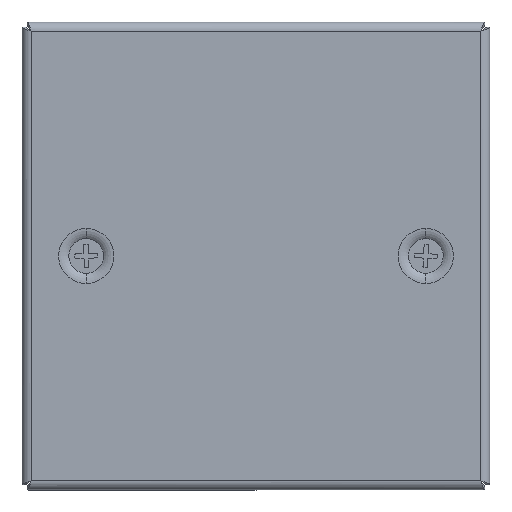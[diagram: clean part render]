
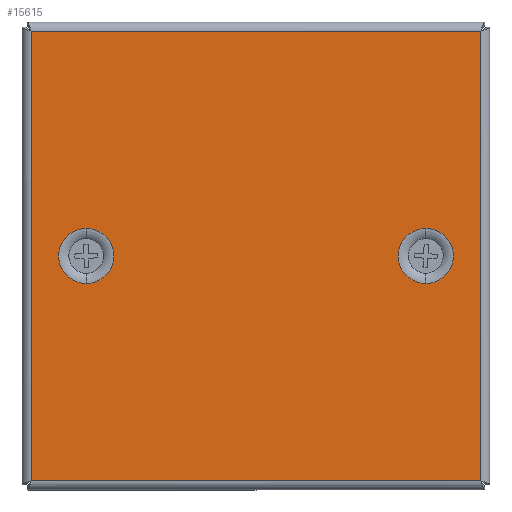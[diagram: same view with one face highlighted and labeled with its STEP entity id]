
A CAD part, top view. The second image highlights one B-rep face of the part: STEP entity #15615.
In plain terms, the highlighted planar face has unit normal (0, 0, 1).
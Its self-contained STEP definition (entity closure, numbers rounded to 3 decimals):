
#182 = FACE_BOUND ( 'NONE', #12487, .T. ) ;
#351 = CIRCLE ( 'NONE', #16103, 7.301 ) ;
#459 = DIRECTION ( 'NONE',  ( 0., -1., 0. ) ) ;
#672 = CARTESIAN_POINT ( 'NONE',  ( 45., -7.301, 0. ) ) ;
#793 = AXIS2_PLACEMENT_3D ( 'NONE', #8541, #15351, #14134 ) ;
#921 = DIRECTION ( 'NONE',  ( 0., -1., 0. ) ) ;
#1149 = EDGE_CURVE ( 'NONE', #2542, #14421, #8811, .T. ) ;
#1466 = VECTOR ( 'NONE', #921, 1000. ) ;
#1764 = VECTOR ( 'NONE', #7849, 1000. ) ;
#1796 = ORIENTED_EDGE ( 'NONE', *, *, #1149, .F. ) ;
#2301 = DIRECTION ( 'NONE',  ( 0., 1., 0. ) ) ;
#2313 = EDGE_CURVE ( 'NONE', #8851, #14352, #12967, .T. ) ;
#2468 = CARTESIAN_POINT ( 'NONE',  ( 60.659, 59.6, 0. ) ) ;
#2475 = ORIENTED_EDGE ( 'NONE', *, *, #5598, .F. ) ;
#2542 = VERTEX_POINT ( 'NONE', #672 ) ;
#2890 = VERTEX_POINT ( 'NONE', #16114 ) ;
#2958 = FACE_BOUND ( 'NONE', #17963, .T. ) ;
#2982 = EDGE_CURVE ( 'NONE', #14421, #2542, #9471, .T. ) ;
#3101 = DIRECTION ( 'NONE',  ( 1., 0., 0. ) ) ;
#3345 = EDGE_CURVE ( 'NONE', #9205, #11919, #6448, .T. ) ;
#3357 = AXIS2_PLACEMENT_3D ( 'NONE', #4174, #15442, #4456 ) ;
#3627 = VECTOR ( 'NONE', #2301, 1000. ) ;
#4174 = CARTESIAN_POINT ( 'NONE',  ( 0., 0., 0. ) ) ;
#4385 = VECTOR ( 'NONE', #3101, 1000. ) ;
#4434 = DIRECTION ( 'NONE',  ( 0., 0., 1. ) ) ;
#4456 = DIRECTION ( 'NONE',  ( 1., 0., 0. ) ) ;
#4653 = CARTESIAN_POINT ( 'NONE',  ( -45., 0., 0. ) ) ;
#4720 = ORIENTED_EDGE ( 'NONE', *, *, #10116, .T. ) ;
#4736 = DIRECTION ( 'NONE',  ( 0., 0., 1. ) ) ;
#5095 = CARTESIAN_POINT ( 'NONE',  ( 59.6, -59.6, 0. ) ) ;
#5598 = EDGE_CURVE ( 'NONE', #2890, #16962, #17569, .T. ) ;
#5735 = DIRECTION ( 'NONE',  ( 0., -1., 0. ) ) ;
#6027 = CARTESIAN_POINT ( 'NONE',  ( -45., 7.301, 0. ) ) ;
#6448 = LINE ( 'NONE', #2468, #1764 ) ;
#7019 = CARTESIAN_POINT ( 'NONE',  ( 45., 0., 0. ) ) ;
#7226 = FACE_OUTER_BOUND ( 'NONE', #16054, .T. ) ;
#7457 = CARTESIAN_POINT ( 'NONE',  ( -59.6, -59.6, 0. ) ) ;
#7533 = EDGE_CURVE ( 'NONE', #14352, #9205, #7959, .T. ) ;
#7739 = AXIS2_PLACEMENT_3D ( 'NONE', #11068, #15543, #17033 ) ;
#7849 = DIRECTION ( 'NONE',  ( -1., 0., 0. ) ) ;
#7959 = LINE ( 'NONE', #9104, #3627 ) ;
#8467 = ORIENTED_EDGE ( 'NONE', *, *, #2982, .F. ) ;
#8541 = CARTESIAN_POINT ( 'NONE',  ( 45., 0., 0. ) ) ;
#8811 = CIRCLE ( 'NONE', #793, 7.301 ) ;
#8851 = VERTEX_POINT ( 'NONE', #7457 ) ;
#9104 = CARTESIAN_POINT ( 'NONE',  ( 59.6, -60.659, 0. ) ) ;
#9205 = VERTEX_POINT ( 'NONE', #15562 ) ;
#9471 = CIRCLE ( 'NONE', #12753, 7.301 ) ;
#10116 = EDGE_CURVE ( 'NONE', #11919, #8851, #11148, .T. ) ;
#10930 = ORIENTED_EDGE ( 'NONE', *, *, #2313, .T. ) ;
#11068 = CARTESIAN_POINT ( 'NONE',  ( -45., 0., 0. ) ) ;
#11148 = LINE ( 'NONE', #16838, #1466 ) ;
#11372 = ORIENTED_EDGE ( 'NONE', *, *, #7533, .T. ) ;
#11919 = VERTEX_POINT ( 'NONE', #14313 ) ;
#12338 = ORIENTED_EDGE ( 'NONE', *, *, #14115, .F. ) ;
#12487 = EDGE_LOOP ( 'NONE', ( #2475, #12338 ) ) ;
#12753 = AXIS2_PLACEMENT_3D ( 'NONE', #7019, #4434, #5735 ) ;
#12967 = LINE ( 'NONE', #16040, #4385 ) ;
#14115 = EDGE_CURVE ( 'NONE', #16962, #2890, #351, .T. ) ;
#14134 = DIRECTION ( 'NONE',  ( 0., -1., 0. ) ) ;
#14219 = PLANE ( 'NONE',  #3357 ) ;
#14313 = CARTESIAN_POINT ( 'NONE',  ( -59.6, 59.6, 0. ) ) ;
#14352 = VERTEX_POINT ( 'NONE', #5095 ) ;
#14421 = VERTEX_POINT ( 'NONE', #18300 ) ;
#15351 = DIRECTION ( 'NONE',  ( 0., 0., 1. ) ) ;
#15442 = DIRECTION ( 'NONE',  ( 0., 0., 1. ) ) ;
#15543 = DIRECTION ( 'NONE',  ( 0., 0., 1. ) ) ;
#15562 = CARTESIAN_POINT ( 'NONE',  ( 59.6, 59.6, 0. ) ) ;
#15615 = ADVANCED_FACE ( 'NONE', ( #2958, #182, #7226 ), #14219, .T. ) ;
#16040 = CARTESIAN_POINT ( 'NONE',  ( -60.659, -59.6, 0. ) ) ;
#16054 = EDGE_LOOP ( 'NONE', ( #4720, #10930, #11372, #17490 ) ) ;
#16103 = AXIS2_PLACEMENT_3D ( 'NONE', #4653, #4736, #459 ) ;
#16114 = CARTESIAN_POINT ( 'NONE',  ( -45., -7.301, 0. ) ) ;
#16838 = CARTESIAN_POINT ( 'NONE',  ( -59.6, 60.659, 0. ) ) ;
#16962 = VERTEX_POINT ( 'NONE', #6027 ) ;
#17033 = DIRECTION ( 'NONE',  ( 0., -1., 0. ) ) ;
#17490 = ORIENTED_EDGE ( 'NONE', *, *, #3345, .T. ) ;
#17569 = CIRCLE ( 'NONE', #7739, 7.301 ) ;
#17963 = EDGE_LOOP ( 'NONE', ( #1796, #8467 ) ) ;
#18300 = CARTESIAN_POINT ( 'NONE',  ( 45., 7.301, 0. ) ) ;
